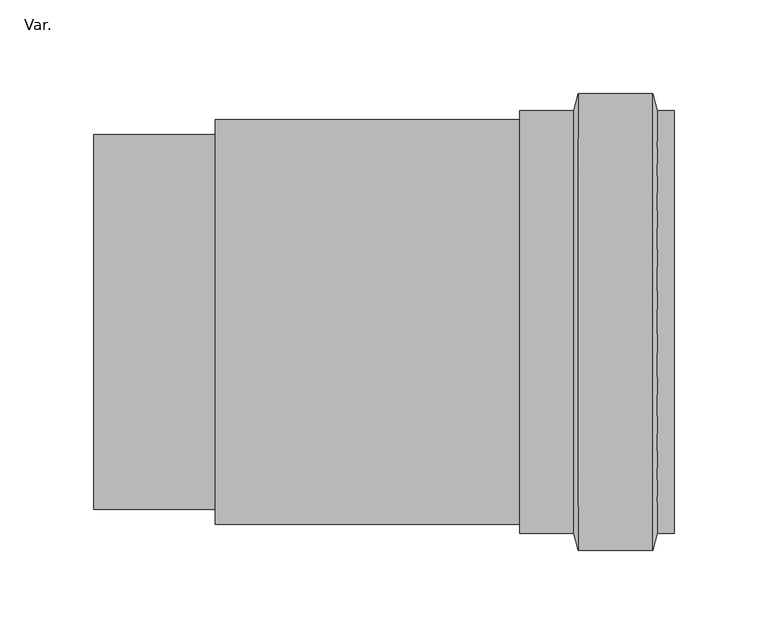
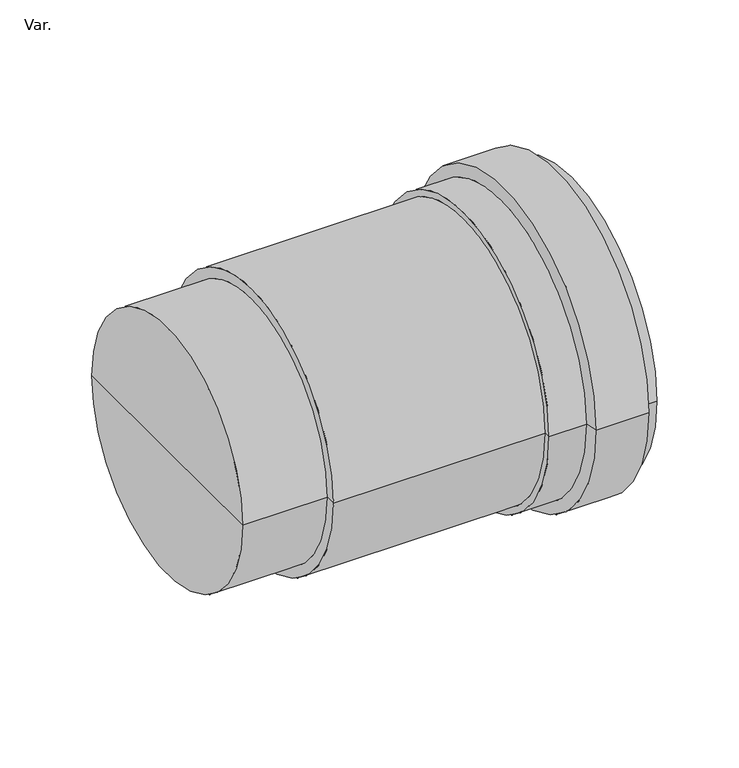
"""IFC4 building model written with IfcOpenShell, lengths in millimetres: pipe fitting geometry, PIF_HDPE expansion socket_Akatherm : Var.."""

import ifcopenshell
import ifcopenshell.guid

model = None  # the IFC model being written
_history = None  # IfcOwnerHistory: only IFC2X3 demands one
_inside = {}  # id of a spatial element -> (the spatial element, [elements in it])
_under = {}  # id of a project, library or spatial element -> (it, [spatial elements below it])
_declared = {}  # id of a project -> (the project, [libraries it declares])
_typed = {}  # id of a type object -> (the type object, [elements of that type])
_made_of = {}  # id of a material, layer set ... -> (it, [elements and type objects made of it])


def new_model(schema):
    """Start an empty IFC model of exactly this schema.

    Asked for "IFC4X3", IfcOpenShell would pick the latest addendum, in which some entities
    have other attributes; the version numbers below select the first issue.
    IFC2X3 requires an IfcOwnerHistory on every rooted entity: one is made here for all.
    """
    global model, _history
    if schema == "IFC4X3":
        model = ifcopenshell.file(schema_version=(4, 3, 0, 0))
    else:
        model = ifcopenshell.file(schema=schema)
    _inside.clear()
    _under.clear()
    _declared.clear()
    _typed.clear()
    _made_of.clear()
    _history = None
    if model.schema == "IFC2X3":
        org = make("IfcOrganization", Name="unknown")
        user = make(
            "IfcPersonAndOrganization",
            ThePerson=make("IfcPerson", FamilyName="unknown"),
            TheOrganization=org,
        )
        app = make(
            "IfcApplication",
            ApplicationDeveloper=org,
            Version="unknown",
            ApplicationFullName="unknown",
            ApplicationIdentifier="unknown",
        )
        _history = make(
            "IfcOwnerHistory",
            OwningUser=user,
            OwningApplication=app,
            ChangeAction="ADDED",
            CreationDate=0,
        )
    return model


def make(cls, **values):
    """One entity of the class cls with the attributes given. An attribute that is None is left unset."""
    return model.create_entity(
        cls, **{name: value for name, value in values.items() if value is not None}
    )


def rooted(cls, **values):
    """An entity with a GlobalId (a new one), such as an element, a storey or a relation."""
    return make(cls, GlobalId=ifcopenshell.guid.new(), OwnerHistory=_history, **values)


def si_unit(unit_type, name, prefix=None):
    """IfcSIUnit, for example si_unit("LENGTHUNIT", "METRE", prefix="MILLI")."""
    return make("IfcSIUnit", UnitType=unit_type, Prefix=prefix, Name=name)


def assignment(units):
    """IfcUnitAssignment: the units of a project."""
    return None if units is None else make("IfcUnitAssignment", Units=units)


def point(xyz):
    """IfcCartesianPoint."""
    return None if xyz is None else make("IfcCartesianPoint", Coordinates=xyz)


def direction(xyz):
    """IfcDirection."""
    return None if xyz is None else make("IfcDirection", DirectionRatios=xyz)


def frame(location, z_axis=None, x_axis=None):
    """IfcAxis2Placement3D, a coordinate frame: its origin and axes. An axis left out is left unset."""
    return make(
        "IfcAxis2Placement3D",
        Location=point(location),
        Axis=direction(z_axis),
        RefDirection=direction(x_axis),
    )


def origin():
    """The frame at (0, 0, 0) with its axes left unset."""
    return frame((0.0, 0.0, 0.0))


def place(relative_to, where):
    """IfcLocalPlacement: puts the frame where relative to a parent placement (None: the world)."""
    return make(
        "IfcLocalPlacement", PlacementRelTo=relative_to, RelativePlacement=where
    )


def context(
    kind, dimensions, precision=None, world=None, true_north=None, identifier=None
):
    """IfcGeometricRepresentationContext, for example the 3D "Model" context."""
    return make(
        "IfcGeometricRepresentationContext",
        ContextIdentifier=identifier,
        ContextType=kind,
        CoordinateSpaceDimension=dimensions,
        Precision=precision,
        WorldCoordinateSystem=world,
        TrueNorth=true_north,
    )


def project(units=None, contexts=None):
    """IfcProject with its units and contexts."""
    return rooted(
        "IfcProject",
        Name="project",
        RepresentationContexts=contexts,
        UnitsInContext=assignment(units),
    )


def spatial(cls, under=None, at=None, **own):
    """A site, building, storey or space (cls), placed at a placement, below another one or the project."""
    s = rooted(cls, ObjectPlacement=at, **own)
    if under is not None:
        _under.setdefault(under.id(), (under, []))[1].append(s)
    return s


def polyline(points):
    """IfcPolyline through the points."""
    return make("IfcPolyline", Points=[point(p) for p in points])


def circle_curve(where, radius):
    """IfcCircle in the frame where."""
    return make("IfcCircle", Position=where, Radius=radius)


def shape(context_of_items, identifier, shape_type, items):
    """IfcShapeRepresentation: the items that make up one representation, for example the "Body"."""
    return make(
        "IfcShapeRepresentation",
        ContextOfItems=context_of_items,
        RepresentationIdentifier=identifier,
        RepresentationType=shape_type,
        Items=items,
    )


def source(mapping_origin, context_of_items, identifier, shape_type, items):
    """IfcRepresentationMap: a shape defined once, which mapped items show again and again."""
    return make(
        "IfcRepresentationMap",
        MappingOrigin=mapping_origin,
        MappedRepresentation=shape(context_of_items, identifier, shape_type, items),
    )


def transform(
    local_origin,
    x_axis=None,
    y_axis=None,
    z_axis=None,
    scale=None,
    scale2=None,
    scale3=None,
    uniform=True,
):
    """IfcCartesianTransformationOperator3D, or its non-uniform kind. x_axis, y_axis, z_axis: its Axis1, 2, 3."""
    if uniform:
        return make(
            "IfcCartesianTransformationOperator3D",
            Axis1=direction(x_axis),
            Axis2=direction(y_axis),
            LocalOrigin=point(local_origin),
            Scale=scale,
            Axis3=direction(z_axis),
        )
    return make(
        "IfcCartesianTransformationOperator3DnonUniform",
        Axis1=direction(x_axis),
        Axis2=direction(y_axis),
        LocalOrigin=point(local_origin),
        Scale=scale,
        Axis3=direction(z_axis),
        Scale2=scale2,
        Scale3=scale3,
    )


def mapped(mapping_source, mapping_target):
    """IfcMappedItem: shows the shape of a source again, moved by a transform."""
    return make(
        "IfcMappedItem", MappingSource=mapping_source, MappingTarget=mapping_target
    )


def made_of(thing, what):
    """Note that an element or type object is made of a material, layer set ...; save() writes the relation."""
    if what is not None:
        _made_of.setdefault(what.id(), (what, []))[1].append(thing)
    return thing


def element(
    cls,
    number,
    at=None,
    inside=None,
    cuts=None,
    type_object=None,
    material=None,
    context=None,
    identifier="Body",
    shape_type=None,
    held_by="IfcProductDefinitionShape",
    body=None,
    shapes=None,
    **own,
):
    """One element of the class cls, such as IfcWall. Its Tag is "e" and its number.

    at: its placement. inside: the storey or other place that contains it. cuts: it is an
    opening in that element (IfcRelVoidsElement). A single representation is given by context,
    identifier, shape_type and body (its items); several are given by shapes. held_by: the class
    of the entity that holds the representations. save() writes the other relations.
    """
    e = rooted(cls, Tag="e%d" % number, ObjectPlacement=at, **own)
    if body is not None:
        shapes = [shape(context, identifier, shape_type, body)]
    if shapes is not None:
        e.Representation = make(held_by, Representations=shapes)
    if inside is not None:
        _inside.setdefault(inside.id(), (inside, []))[1].append(e)
    if cuts is not None:
        rooted(
            "IfcRelVoidsElement", RelatingBuildingElement=cuts, RelatedOpeningElement=e
        )
    if type_object is not None:
        _typed.setdefault(type_object.id(), (type_object, []))[1].append(e)
    return made_of(e, material)


def aggregate(whole, parts):
    """IfcRelAggregates: a whole, such as a stair, and the parts it consists of."""
    return rooted("IfcRelAggregates", RelatingObject=whole, RelatedObjects=parts)


def save(model, path):
    """Write the relations noted so far, then the file.

    IfcRelAggregates (storeys below a building ...), IfcRelContainedInSpatialStructure (elements
    in a storey), IfcRelDefinesByType, IfcRelAssociatesMaterial and IfcRelDeclares: one each for
    every whole, place, type object, material and project.
    """
    for whole, parts in _under.values():
        aggregate(whole, parts)
    for where, things in _inside.values():
        rooted(
            "IfcRelContainedInSpatialStructure",
            RelatedElements=things,
            RelatingStructure=where,
        )
    for kind, things in _typed.values():
        rooted("IfcRelDefinesByType", RelatedObjects=things, RelatingType=kind)
    for what, things in _made_of.values():
        rooted("IfcRelAssociatesMaterial", RelatedObjects=things, RelatingMaterial=what)
    for by, libraries in _declared.values():
        rooted("IfcRelDeclares", RelatingContext=by, RelatedDefinitions=libraries)
    model.write(path)


def plane_surface(at):
    """IfcPlane: the flat surface through the origin of the frame at, square to its z axis."""
    return make("IfcPlane", Position=at)


def cylinder_surface(at, radius):
    """IfcCylindricalSurface: all points at the distance radius from the z axis of the frame at."""
    return make("IfcCylindricalSurface", Position=at, Radius=radius)


def revolved_surface(curve, axis_point, axis_direction):
    """IfcSurfaceOfRevolution: the curve turned about the line through axis_point along axis_direction."""
    return make(
        "IfcSurfaceOfRevolution",
        SweptCurve=make("IfcArbitraryOpenProfileDef", ProfileType="CURVE", Curve=curve),
        AxisPosition=make("IfcAxis1Placement", Location=point(axis_point), Axis=direction(axis_direction)),
    )


def advanced_brep(points, edges, surfaces, faces):
    """IfcAdvancedBrep: a solid bounded by faces that lie on surfaces and meet in shared edges.

    An edge is (start, end): straight between two places in points (the first is 0);
    or (start, end, curve); or (start, end, curve, False) where it runs against its curve.
    A face is (place in surfaces, loops), or (place, loops, False) where it looks against
    its surface's normal. A loop lists edges by number (the first is 1), with a minus sign
    where the edge is run from its end to its start. The first loop is the outer one.
    """
    corners = [point(p) for p in points]
    vertices = [make("IfcVertexPoint", VertexGeometry=c) for c in corners]
    made = []
    for start, end, *more in edges:
        made.append(
            make(
                "IfcEdgeCurve",
                EdgeStart=vertices[start],
                EdgeEnd=vertices[end],
                EdgeGeometry=more[0] if more else make("IfcPolyline", Points=[corners[start], corners[end]]),
                SameSense=more[1] if len(more) > 1 else True,
            )
        )
    hull = []
    for where, loops, *sense in faces:
        bounds = []
        for j, loop in enumerate(loops):
            ring = [make("IfcOrientedEdge", EdgeElement=made[abs(k) - 1], Orientation=k > 0) for k in loop]
            bounds.append(
                make(
                    "IfcFaceOuterBound" if j == 0 else "IfcFaceBound",
                    Bound=make("IfcEdgeLoop", EdgeList=ring),
                    Orientation=True,
                )
            )
        hull.append(make("IfcAdvancedFace", Bounds=bounds, FaceSurface=surfaces[where], SameSense=sense[0] if sense else True))
    return make("IfcAdvancedBrep", Outer=make("IfcClosedShell", CfsFaces=hull))


def var_5b2d795d(model_context):
    return source(origin(), model_context, "Body", "AdvancedBrep", [
        advanced_brep(
        [(-40.0, 0.0, 0.0), (-40.0, 100.0, 0.0), (-40.0, -100.0, 0.0), (270.0, -113.0, 0.0), (270.0, 113.0, 0.0), (270.0, 0.0, 0.0), (261.0, -113.0, 0.0), (261.0, 113.0, 0.0), (258.5884573, -122.0, 0.0), (258.5884573, 122.0, 0.0), (218.6115427, -122.0, 0.0), (218.6115427, 122.0, 0.0), (216.2, -113.0, 0.0), (216.2, 113.0, 0.0), (187.4, -113.0, 0.0), (187.4, 113.0, 0.0), (187.4, -108.0, 0.0), (187.4, 108.0, 0.0), (25.0, -108.0, 0.0), (25.0, 108.0, 0.0), (25.0, -100.0, 0.0), (25.0, 100.0, 0.0)],
        [
            (0, 1),
            (1, 2, circle_curve(frame((-40.0, 0.0, 0.0), z_axis=(-1.0, 0.0, 0.0), x_axis=(0.0, 1.0, 0.0)), 100.0)),
            (2, 0),
            (2, 1, circle_curve(frame((-40.0, 0.0, 0.0), z_axis=(-1.0, 0.0, 0.0), x_axis=(0.0, 1.0, 0.0)), 100.0)),
            (3, 4, circle_curve(frame((270.0, 0.0, 0.0), z_axis=(1.0, 0.0, 0.0), x_axis=(0.0, 1.0, 0.0)), 113.0)),
            (4, 5),
            (5, 3),
            (4, 3, circle_curve(frame((270.0, 0.0, 0.0), z_axis=(1.0, 0.0, 0.0), x_axis=(0.0, 1.0, 0.0)), 113.0)),
            (6, 7, circle_curve(frame((261.0, 0.0, 0.0), z_axis=(1.0, 0.0, 0.0), x_axis=(0.0, 1.0, 0.0)), 113.0)),
            (7, 4),
            (3, 6),
            (7, 6, circle_curve(frame((261.0, 0.0, 0.0), z_axis=(1.0, 0.0, 0.0), x_axis=(0.0, 1.0, 0.0)), 113.0)),
            (8, 9, circle_curve(frame((258.5884573, 0.0, 0.0), z_axis=(1.0, 0.0, 0.0), x_axis=(0.0, 1.0, 0.0)), 122.0)),
            (9, 7),
            (6, 8),
            (9, 8, circle_curve(frame((258.5884573, 0.0, 0.0), z_axis=(1.0, 0.0, 0.0), x_axis=(0.0, 1.0, 0.0)), 122.0)),
            (10, 11, circle_curve(frame((218.6115427, 0.0, 0.0), z_axis=(1.0, 0.0, 0.0), x_axis=(0.0, 1.0, 0.0)), 122.0)),
            (11, 9),
            (8, 10),
            (11, 10, circle_curve(frame((218.6115427, 0.0, 0.0), z_axis=(1.0, 0.0, 0.0), x_axis=(0.0, 1.0, 0.0)), 122.0)),
            (12, 13, circle_curve(frame((216.2, 0.0, 0.0), z_axis=(1.0, 0.0, 0.0), x_axis=(0.0, 1.0, 0.0)), 113.0)),
            (13, 11),
            (10, 12),
            (13, 12, circle_curve(frame((216.2, 0.0, 0.0), z_axis=(1.0, 0.0, 0.0), x_axis=(0.0, 1.0, 0.0)), 113.0)),
            (14, 15, circle_curve(frame((187.4, 0.0, 0.0), z_axis=(1.0, 0.0, 0.0), x_axis=(0.0, 1.0, 0.0)), 113.0)),
            (15, 13),
            (12, 14),
            (15, 14, circle_curve(frame((187.4, 0.0, 0.0), z_axis=(1.0, 0.0, 0.0), x_axis=(0.0, 1.0, 0.0)), 113.0)),
            (16, 17, circle_curve(frame((187.4, 0.0, 0.0), z_axis=(1.0, 0.0, 0.0), x_axis=(0.0, 1.0, 0.0)), 108.0)),
            (17, 15),
            (14, 16),
            (17, 16, circle_curve(frame((187.4, 0.0, 0.0), z_axis=(1.0, 0.0, 0.0), x_axis=(0.0, 1.0, 0.0)), 108.0)),
            (18, 19, circle_curve(frame((25.0, 0.0, 0.0), z_axis=(1.0, 0.0, 0.0), x_axis=(0.0, 1.0, 0.0)), 108.0)),
            (19, 17),
            (16, 18),
            (19, 18, circle_curve(frame((25.0, 0.0, 0.0), z_axis=(1.0, 0.0, 0.0), x_axis=(0.0, 1.0, 0.0)), 108.0)),
            (20, 21, circle_curve(frame((25.0, 0.0, 0.0), z_axis=(1.0, 0.0, 0.0), x_axis=(0.0, 1.0, 0.0)), 100.0)),
            (21, 19),
            (18, 20),
            (21, 20, circle_curve(frame((25.0, 0.0, 0.0), z_axis=(1.0, 0.0, 0.0), x_axis=(0.0, 1.0, 0.0)), 100.0)),
            (1, 21),
            (20, 2),
        ],
        [
            plane_surface(frame((-40.0, 0.0, 0.0), z_axis=(-1.0, 0.0, 0.0), x_axis=(0.0, 1.0, 0.0))),
            plane_surface(frame((270.0, 0.0, 0.0), z_axis=(1.0, 0.0, 0.0), x_axis=(0.0, 1.0, 0.0))),
            cylinder_surface(frame((-65.0, 0.0, 0.0), z_axis=(-1.0, 0.0, 0.0), x_axis=(0.0, 1.0, 0.0)), 113.0),
            revolved_surface(polyline([(261.0, 113.0, 0.0), (258.5884573, 122.0, 0.0)]), (-65.0, 0.0, 0.0), (-1.0, 0.0, 0.0)),
            cylinder_surface(frame((-65.0, 0.0, 0.0), z_axis=(-1.0, 0.0, 0.0), x_axis=(0.0, 1.0, 0.0)), 122.0),
            revolved_surface(polyline([(218.6115427, 122.0, 0.0), (216.2, 113.0, 0.0)]), (-65.0, 0.0, 0.0), (-1.0, 0.0, 0.0)),
            plane_surface(frame((187.4, 0.0, 0.0), z_axis=(-1.0, 0.0, 0.0), x_axis=(0.0, 1.0, 0.0))),
            cylinder_surface(frame((-65.0, 0.0, 0.0), z_axis=(-1.0, 0.0, 0.0), x_axis=(0.0, 1.0, 0.0)), 108.0),
            plane_surface(frame((25.0, 0.0, 0.0), z_axis=(-1.0, 0.0, 0.0), x_axis=(0.0, 1.0, 0.0))),
            cylinder_surface(frame((-65.0, 0.0, 0.0), z_axis=(-1.0, 0.0, 0.0), x_axis=(0.0, 1.0, 0.0)), 100.0),
        ],
        [
            (0, [[1, 2, 3]]),
            (0, [[-3, 4, -1]]),
            (1, [[5, 6, 7]]),
            (1, [[8, -7, -6]]),
            (2, [[9, 10, -5, 11]]),
            (2, [[12, -11, -8, -10]]),
            (3, [[13, 14, -9, 15]]),
            (3, [[16, -15, -12, -14]]),
            (4, [[17, 18, -13, 19]]),
            (4, [[20, -19, -16, -18]]),
            (5, [[21, 22, -17, 23]]),
            (5, [[24, -23, -20, -22]]),
            (2, [[25, 26, -21, 27]]),
            (2, [[28, -27, -24, -26]]),
            (6, [[29, 30, -25, 31]]),
            (6, [[32, -31, -28, -30]]),
            (7, [[33, 34, -29, 35]]),
            (7, [[36, -35, -32, -34]]),
            (8, [[37, 38, -33, 39]]),
            (8, [[40, -39, -36, -38]]),
            (9, [[-2, 41, -37, 42]]),
            (9, [[-4, -42, -40, -41]]),
        ],
    ),
    ])


if __name__ == "__main__":
    model = new_model("IFC4")
    model_context = context("Model", 3, world=origin())
    ifc_project = project(units=[si_unit("LENGTHUNIT", "METRE", prefix="MILLI")], contexts=[model_context])
    site = spatial("IfcSite", under=ifc_project)
    building = spatial("IfcBuilding", under=site)
    placement = place(None, origin())
    var_shape = var_5b2d795d(model_context)
    element("IfcPipeFitting", 1, ObjectType="PIF_HDPE expansion socket_Akatherm : Var.", at=placement, inside=building, context=model_context, shape_type="MappedRepresentation", body=[
        mapped(var_shape, transform((0.0, 0.0, 0.0), x_axis=(1.0, 0.0, 0.0), y_axis=(0.0, 1.0, 0.0), z_axis=(0.0, 0.0, 1.0))),
    ])
    save(model, "model.ifc")
